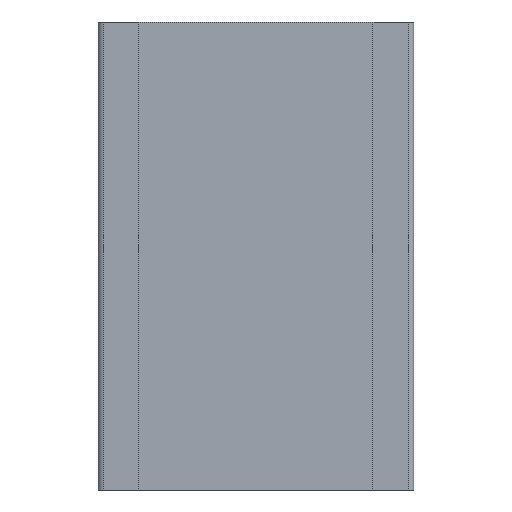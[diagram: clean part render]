
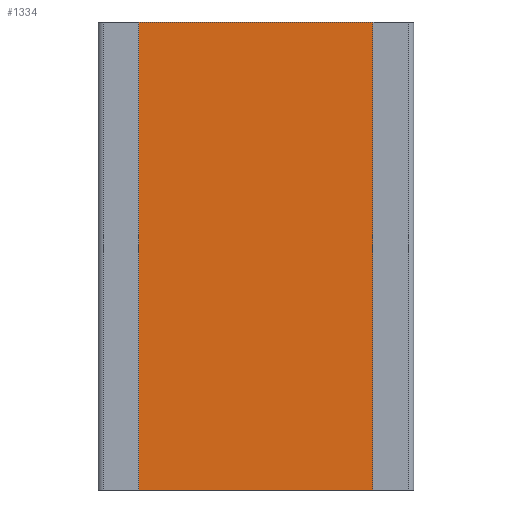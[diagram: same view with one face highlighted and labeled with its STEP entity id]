
A CAD part, front view. The second image highlights one B-rep face of the part: STEP entity #1334.
In plain terms, the highlighted planar face has unit normal (0, -1, 0).
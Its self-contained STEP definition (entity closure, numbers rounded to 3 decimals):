
#1172 = CARTESIAN_POINT ( 'NONE',  ( 1.15, 0., 2.3 ) ) ;
#1173 = VERTEX_POINT ( 'NONE', #1172 ) ;
#1174 = CARTESIAN_POINT ( 'NONE',  ( 1.15, 0., -2.3 ) ) ;
#1175 = VERTEX_POINT ( 'NONE', #1174 ) ;
#1176 = CARTESIAN_POINT ( 'NONE',  ( 1.15, 0., 2.3 ) ) ;
#1177 = DIRECTION ( 'NONE',  ( 0., 0., -1. ) ) ;
#1178 = VECTOR ( 'NONE', #1177, 1000. ) ;
#1179 = LINE ( 'NONE', #1176, #1178 ) ;
#1180 = EDGE_CURVE ( 'NONE', #1173, #1175, #1179, .T. ) ;
#1215 = CARTESIAN_POINT ( 'NONE',  ( -1.15, 0., -2.3 ) ) ;
#1216 = VERTEX_POINT ( 'NONE', #1215 ) ;
#1217 = CARTESIAN_POINT ( 'NONE',  ( -1.15, 0., -2.3 ) ) ;
#1218 = DIRECTION ( 'NONE',  ( -1., 0., 0. ) ) ;
#1219 = VECTOR ( 'NONE', #1218, 1000. ) ;
#1220 = LINE ( 'NONE', #1217, #1219 ) ;
#1221 = EDGE_CURVE ( 'NONE', #1175, #1216, #1220, .T. ) ;
#1249 = CARTESIAN_POINT ( 'NONE',  ( -1.15, 0., 2.3 ) ) ;
#1250 = VERTEX_POINT ( 'NONE', #1249 ) ;
#1251 = CARTESIAN_POINT ( 'NONE',  ( -1.15, 0., 2.3 ) ) ;
#1252 = DIRECTION ( 'NONE',  ( 0., 0., 1. ) ) ;
#1253 = VECTOR ( 'NONE', #1252, 1000. ) ;
#1254 = LINE ( 'NONE', #1251, #1253 ) ;
#1255 = EDGE_CURVE ( 'NONE', #1216, #1250, #1254, .T. ) ;
#1283 = CARTESIAN_POINT ( 'NONE',  ( -1.15, 0., 2.3 ) ) ;
#1284 = DIRECTION ( 'NONE',  ( 1., 0., 0. ) ) ;
#1285 = VECTOR ( 'NONE', #1284, 1000. ) ;
#1286 = LINE ( 'NONE', #1283, #1285 ) ;
#1287 = EDGE_CURVE ( 'NONE', #1250, #1173, #1286, .T. ) ;
#1323 = ORIENTED_EDGE ( 'NONE', *, *, #1180, .F. ) ;
#1324 = ORIENTED_EDGE ( 'NONE', *, *, #1287, .F. ) ;
#1325 = ORIENTED_EDGE ( 'NONE', *, *, #1255, .F. ) ;
#1326 = ORIENTED_EDGE ( 'NONE', *, *, #1221, .F. ) ;
#1327 = EDGE_LOOP ( 'NONE', ( #1323, #1324, #1325, #1326 ) ) ;
#1328 = FACE_OUTER_BOUND ( 'NONE', #1327, .T. ) ;
#1329 = CARTESIAN_POINT ( 'NONE',  ( 0., 0., 0. ) ) ;
#1330 = DIRECTION ( 'NONE',  ( 0., -1., 0. ) ) ;
#1331 = DIRECTION ( 'NONE',  ( 0., 0., -1. ) ) ;
#1332 = AXIS2_PLACEMENT_3D ( 'NONE', #1329, #1330, #1331 ) ;
#1333 = PLANE ( 'NONE', #1332 ) ;
#1334 = ADVANCED_FACE ( 'NONE', ( #1328 ), #1333, .T. ) ;
